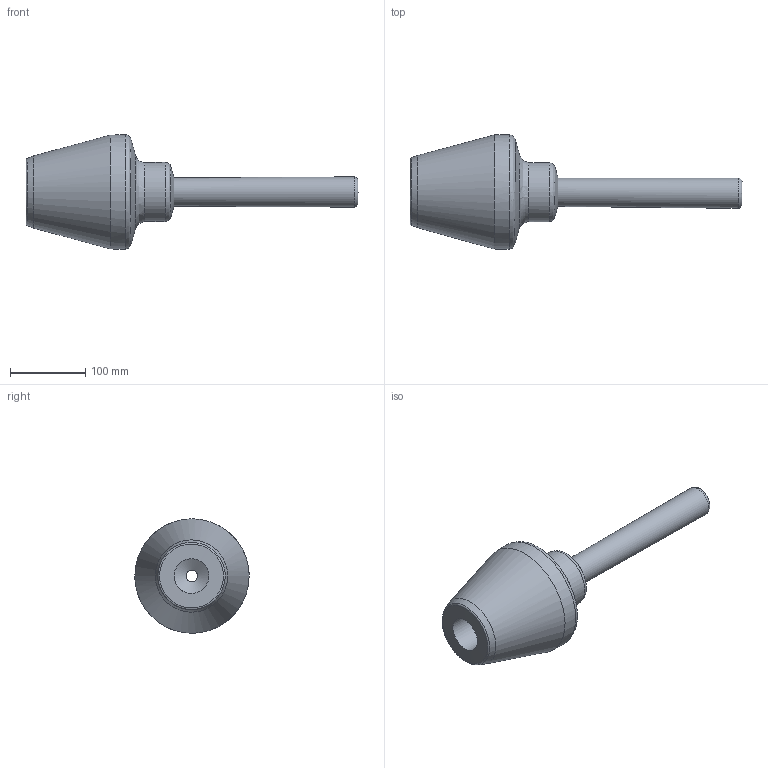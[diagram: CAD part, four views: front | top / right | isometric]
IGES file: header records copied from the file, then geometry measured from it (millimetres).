
Global section: file name: SRPC-2-1; native system: Autodesk Inventor 2016; preprocessor: unknown; author: DESIGNPC2; date: 20151219.132756; units: millimetre
Bounding box: 439.86 x 151.45 x 151.4 mm (x, y, z)
Volume: 2144300 mm3; surface area: 150434.6 mm2
Topology: 1 solids, 1 shells, 17 faces, 61 edges, 44 vertices
Faces by surface type: bspline 17
